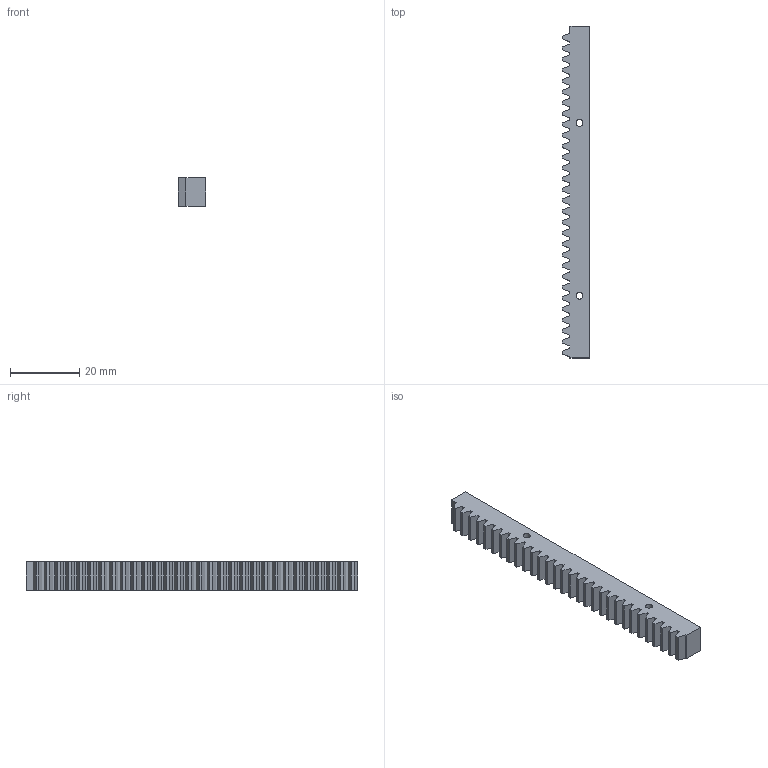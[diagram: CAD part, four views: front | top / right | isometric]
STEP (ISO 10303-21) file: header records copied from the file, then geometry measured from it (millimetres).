
FILE_DESCRIPTION(('Open CASCADE Model'),'2;1');
FILE_NAME('Open CASCADE Shape Model','2026-10-17T21:05:49',('Author'),( 'Open CASCADE'),'Open CASCADE STEP processor 7.9','Open CASCADE 7.9' ,'Unknown');
FILE_SCHEMA(('AUTOMOTIVE_DESIGN { 1 0 10303 214 1 1 1 1 }'));
Length unit declared in the file: millimetre
Products named in the file (1): Open CASCADE STEP translator 7.9 14
Bounding box: 8 x 96 x 8.2 mm (x, y, z)
Volume: 5394.7 mm3; surface area: 3862.6 mm2
Topology: 1 solids, 1 shells, 128 faces, 378 edges, 252 vertices
Faces by surface type: plane 126, cylinder 2
Full cylindrical faces by diameter (mm): 2 x2
Entity records: 9118 total; most frequent: CARTESIAN_POINT 1515, DIRECTION 1396, LINE 1126, VECTOR 1126, ORIENTED_EDGE 756, PCURVE 756, DEFINITIONAL_REPRESENTATION 756, EDGE_CURVE 378
